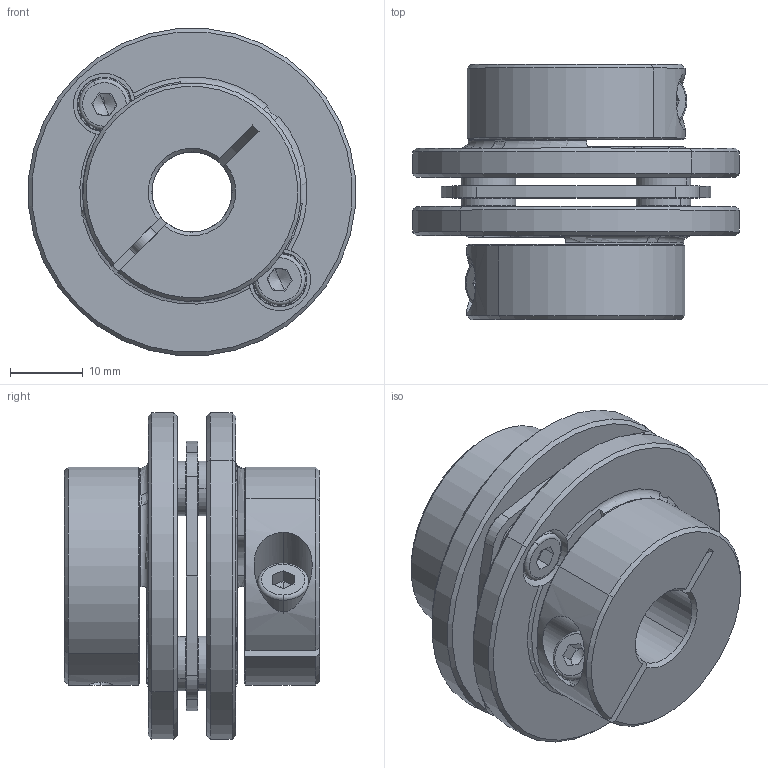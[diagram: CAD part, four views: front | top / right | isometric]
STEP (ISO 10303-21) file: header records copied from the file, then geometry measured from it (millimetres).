
FILE_DESCRIPTION (( 'STEP AP203' ), '1' );
FILE_NAME ('LE1-B-D45L35-11-11.STEP', '2021-11-01T03:06:56', ( '' ), ( '' ), 'SwSTEP 2.0', 'SolidWorks 2018', '' );
FILE_SCHEMA (( 'CONFIG_CONTROL_DESIGN' ));
Length unit declared in the file: millimetre
Products named in the file (1): LE1-B-D45L35-11-11
Bounding box: 44.83 x 35 x 44.83 mm (x, y, z)
Volume: 25602.9 mm3; surface area: 15827 mm2
Topology: 1 solids, 13 shells, 405 faces, 991 edges, 614 vertices
Faces by surface type: plane 136, cylinder 135, cone 114, torus 18, bspline 2
Entity records: 12432 total; most frequent: CARTESIAN_POINT 2479, DIRECTION 2247, ORIENTED_EDGE 1958, EDGE_CURVE 979, AXIS2_PLACEMENT_3D 914, VERTEX_POINT 614, CIRCLE 510, EDGE_LOOP 469
